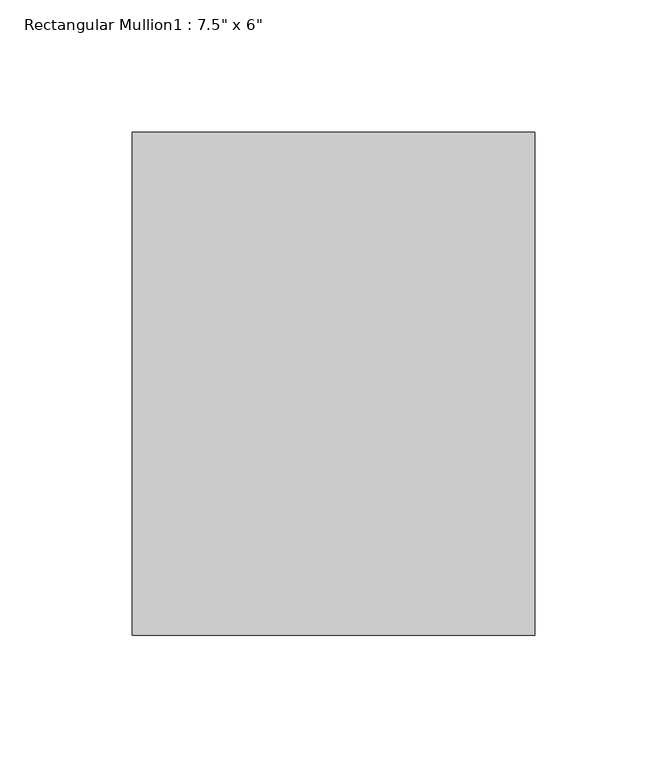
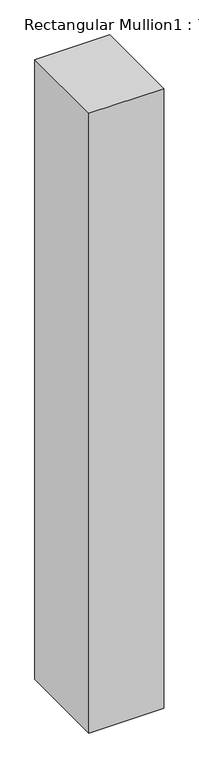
"""IFC4 building model written with IfcOpenShell, lengths in millimetres: member geometry."""

import ifcopenshell
import ifcopenshell.guid

model = None  # the IFC model being written
_history = None  # IfcOwnerHistory: only IFC2X3 demands one
_inside = {}  # id of a spatial element -> (the spatial element, [elements in it])
_under = {}  # id of a project, library or spatial element -> (it, [spatial elements below it])
_declared = {}  # id of a project -> (the project, [libraries it declares])
_typed = {}  # id of a type object -> (the type object, [elements of that type])
_made_of = {}  # id of a material, layer set ... -> (it, [elements and type objects made of it])


def new_model(schema):
    """Start an empty IFC model of exactly this schema.

    Asked for "IFC4X3", IfcOpenShell would pick the latest addendum, in which some entities
    have other attributes; the version numbers below select the first issue.
    IFC2X3 requires an IfcOwnerHistory on every rooted entity: one is made here for all.
    """
    global model, _history
    if schema == "IFC4X3":
        model = ifcopenshell.file(schema_version=(4, 3, 0, 0))
    else:
        model = ifcopenshell.file(schema=schema)
    _inside.clear()
    _under.clear()
    _declared.clear()
    _typed.clear()
    _made_of.clear()
    _history = None
    if model.schema == "IFC2X3":
        org = make("IfcOrganization", Name="unknown")
        user = make(
            "IfcPersonAndOrganization",
            ThePerson=make("IfcPerson", FamilyName="unknown"),
            TheOrganization=org,
        )
        app = make(
            "IfcApplication",
            ApplicationDeveloper=org,
            Version="unknown",
            ApplicationFullName="unknown",
            ApplicationIdentifier="unknown",
        )
        _history = make(
            "IfcOwnerHistory",
            OwningUser=user,
            OwningApplication=app,
            ChangeAction="ADDED",
            CreationDate=0,
        )
    return model


def make(cls, **values):
    """One entity of the class cls with the attributes given. An attribute that is None is left unset."""
    return model.create_entity(
        cls, **{name: value for name, value in values.items() if value is not None}
    )


def rooted(cls, **values):
    """An entity with a GlobalId (a new one), such as an element, a storey or a relation."""
    return make(cls, GlobalId=ifcopenshell.guid.new(), OwnerHistory=_history, **values)


def si_unit(unit_type, name, prefix=None):
    """IfcSIUnit, for example si_unit("LENGTHUNIT", "METRE", prefix="MILLI")."""
    return make("IfcSIUnit", UnitType=unit_type, Prefix=prefix, Name=name)


def assignment(units):
    """IfcUnitAssignment: the units of a project."""
    return None if units is None else make("IfcUnitAssignment", Units=units)


def point(xyz):
    """IfcCartesianPoint."""
    return None if xyz is None else make("IfcCartesianPoint", Coordinates=xyz)


def direction(xyz):
    """IfcDirection."""
    return None if xyz is None else make("IfcDirection", DirectionRatios=xyz)


def frame(location, z_axis=None, x_axis=None):
    """IfcAxis2Placement3D, a coordinate frame: its origin and axes. An axis left out is left unset."""
    return make(
        "IfcAxis2Placement3D",
        Location=point(location),
        Axis=direction(z_axis),
        RefDirection=direction(x_axis),
    )


def origin():
    """The frame at (0, 0, 0) with its axes left unset."""
    return frame((0.0, 0.0, 0.0))


def place(relative_to, where):
    """IfcLocalPlacement: puts the frame where relative to a parent placement (None: the world)."""
    return make(
        "IfcLocalPlacement", PlacementRelTo=relative_to, RelativePlacement=where
    )


def context(
    kind, dimensions, precision=None, world=None, true_north=None, identifier=None
):
    """IfcGeometricRepresentationContext, for example the 3D "Model" context."""
    return make(
        "IfcGeometricRepresentationContext",
        ContextIdentifier=identifier,
        ContextType=kind,
        CoordinateSpaceDimension=dimensions,
        Precision=precision,
        WorldCoordinateSystem=world,
        TrueNorth=true_north,
    )


def project(units=None, contexts=None):
    """IfcProject with its units and contexts."""
    return rooted(
        "IfcProject",
        Name="project",
        RepresentationContexts=contexts,
        UnitsInContext=assignment(units),
    )


def spatial(cls, under=None, at=None, **own):
    """A site, building, storey or space (cls), placed at a placement, below another one or the project."""
    s = rooted(cls, ObjectPlacement=at, **own)
    if under is not None:
        _under.setdefault(under.id(), (under, []))[1].append(s)
    return s


def polyline(points):
    """IfcPolyline through the points."""
    return make("IfcPolyline", Points=[point(p) for p in points])


def outline(outer, holes=None, kind="AREA"):
    """IfcArbitraryClosedProfileDef: a profile drawn as a closed curve; with holes, ...WithVoids."""
    if holes is None:
        return make("IfcArbitraryClosedProfileDef", ProfileType=kind, OuterCurve=outer)
    return make(
        "IfcArbitraryProfileDefWithVoids",
        ProfileType=kind,
        OuterCurve=outer,
        InnerCurves=holes,
    )


def extrude(swept, where, along, depth):
    """IfcExtrudedAreaSolid: the profile swept, set in the frame where, extruded along a direction by depth."""
    return make(
        "IfcExtrudedAreaSolid",
        SweptArea=swept,
        Position=where,
        ExtrudedDirection=direction(along),
        Depth=depth,
    )


def shape(context_of_items, identifier, shape_type, items):
    """IfcShapeRepresentation: the items that make up one representation, for example the "Body"."""
    return make(
        "IfcShapeRepresentation",
        ContextOfItems=context_of_items,
        RepresentationIdentifier=identifier,
        RepresentationType=shape_type,
        Items=items,
    )


def source(mapping_origin, context_of_items, identifier, shape_type, items):
    """IfcRepresentationMap: a shape defined once, which mapped items show again and again."""
    return make(
        "IfcRepresentationMap",
        MappingOrigin=mapping_origin,
        MappedRepresentation=shape(context_of_items, identifier, shape_type, items),
    )


def transform(
    local_origin,
    x_axis=None,
    y_axis=None,
    z_axis=None,
    scale=None,
    scale2=None,
    scale3=None,
    uniform=True,
):
    """IfcCartesianTransformationOperator3D, or its non-uniform kind. x_axis, y_axis, z_axis: its Axis1, 2, 3."""
    if uniform:
        return make(
            "IfcCartesianTransformationOperator3D",
            Axis1=direction(x_axis),
            Axis2=direction(y_axis),
            LocalOrigin=point(local_origin),
            Scale=scale,
            Axis3=direction(z_axis),
        )
    return make(
        "IfcCartesianTransformationOperator3DnonUniform",
        Axis1=direction(x_axis),
        Axis2=direction(y_axis),
        LocalOrigin=point(local_origin),
        Scale=scale,
        Axis3=direction(z_axis),
        Scale2=scale2,
        Scale3=scale3,
    )


def mapped(mapping_source, mapping_target):
    """IfcMappedItem: shows the shape of a source again, moved by a transform."""
    return make(
        "IfcMappedItem", MappingSource=mapping_source, MappingTarget=mapping_target
    )


def made_of(thing, what):
    """Note that an element or type object is made of a material, layer set ...; save() writes the relation."""
    if what is not None:
        _made_of.setdefault(what.id(), (what, []))[1].append(thing)
    return thing


def element(
    cls,
    number,
    at=None,
    inside=None,
    cuts=None,
    type_object=None,
    material=None,
    context=None,
    identifier="Body",
    shape_type=None,
    held_by="IfcProductDefinitionShape",
    body=None,
    shapes=None,
    **own,
):
    """One element of the class cls, such as IfcWall. Its Tag is "e" and its number.

    at: its placement. inside: the storey or other place that contains it. cuts: it is an
    opening in that element (IfcRelVoidsElement). A single representation is given by context,
    identifier, shape_type and body (its items); several are given by shapes. held_by: the class
    of the entity that holds the representations. save() writes the other relations.
    """
    e = rooted(cls, Tag="e%d" % number, ObjectPlacement=at, **own)
    if body is not None:
        shapes = [shape(context, identifier, shape_type, body)]
    if shapes is not None:
        e.Representation = make(held_by, Representations=shapes)
    if inside is not None:
        _inside.setdefault(inside.id(), (inside, []))[1].append(e)
    if cuts is not None:
        rooted(
            "IfcRelVoidsElement", RelatingBuildingElement=cuts, RelatedOpeningElement=e
        )
    if type_object is not None:
        _typed.setdefault(type_object.id(), (type_object, []))[1].append(e)
    return made_of(e, material)


def aggregate(whole, parts):
    """IfcRelAggregates: a whole, such as a stair, and the parts it consists of."""
    return rooted("IfcRelAggregates", RelatingObject=whole, RelatedObjects=parts)


def save(model, path):
    """Write the relations noted so far, then the file.

    IfcRelAggregates (storeys below a building ...), IfcRelContainedInSpatialStructure (elements
    in a storey), IfcRelDefinesByType, IfcRelAssociatesMaterial and IfcRelDeclares: one each for
    every whole, place, type object, material and project.
    """
    for whole, parts in _under.values():
        aggregate(whole, parts)
    for where, things in _inside.values():
        rooted(
            "IfcRelContainedInSpatialStructure",
            RelatedElements=things,
            RelatingStructure=where,
        )
    for kind, things in _typed.values():
        rooted("IfcRelDefinesByType", RelatedObjects=things, RelatingType=kind)
    for what, things in _made_of.values():
        rooted("IfcRelAssociatesMaterial", RelatedObjects=things, RelatingMaterial=what)
    for by, libraries in _declared.values():
        rooted("IfcRelDeclares", RelatingContext=by, RelatedDefinitions=libraries)
    model.write(path)


def member_8f0cddf4(model_context):
    return source(origin(), model_context, "Body", "SweptSolid", [
        extrude(outline(polyline([(76.2, 165.1), (76.2, -25.4), (-76.2, -25.4), (-76.2, 165.1), (76.2, 165.1)])), frame((0.0, 0.0, -1332.7582852), z_axis=(0.0, 0.0, 1.0), x_axis=(1.0, 0.0, 0.0)), (0.0, 0.0, 1.0), 1332.7582852),
    ])


if __name__ == "__main__":
    model = new_model("IFC4")
    model_context = context("Model", 3, world=origin())
    ifc_project = project(units=[si_unit("LENGTHUNIT", "METRE", prefix="MILLI")], contexts=[model_context])
    site = spatial("IfcSite", under=ifc_project)
    building = spatial("IfcBuilding", under=site)
    placement = place(None, origin())
    member_shape = member_8f0cddf4(model_context)
    element("IfcMember", 1, ObjectType="Rectangular Mullion1 : 7.5\" x 6\"", at=placement, inside=building, context=model_context, shape_type="MappedRepresentation", body=[
        mapped(member_shape, transform((0.0, 0.0, 0.0), x_axis=(1.0, 0.0, 0.0), y_axis=(0.0, 1.0, 0.0), z_axis=(0.0, 0.0, 1.0))),
    ])
    save(model, "model.ifc")
